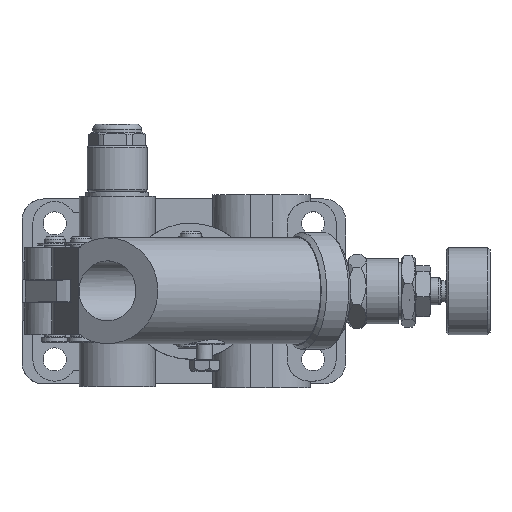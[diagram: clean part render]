
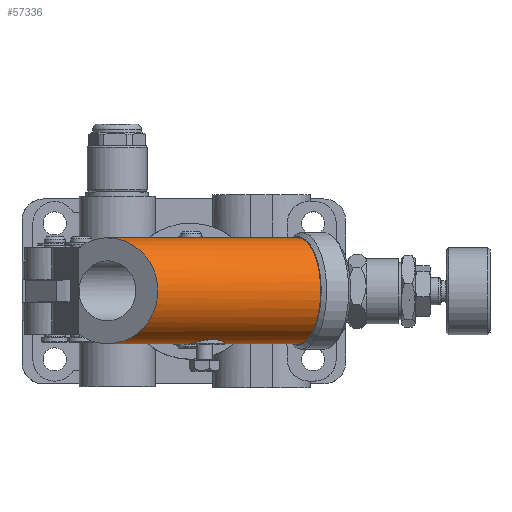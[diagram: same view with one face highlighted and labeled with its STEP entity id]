
A CAD part, top view. The second image highlights one B-rep face of the part: STEP entity #57336.
In plain terms, the highlighted cylindrical face has radius 19.48 mm (diameter 38.961 mm), a partial arc.
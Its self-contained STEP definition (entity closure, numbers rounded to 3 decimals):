
#95=ELLIPSE('',#60518,20.731,19.481);
#96=ELLIPSE('',#60523,20.731,19.481);
#97=ELLIPSE('',#60526,20.731,19.481);
#98=ELLIPSE('',#60529,22.494,19.481);
#99=ELLIPSE('',#60532,20.731,19.481);
#326=B_SPLINE_CURVE_WITH_KNOTS('',3,(#86582,#86583,#86584,#86585,#86586,
#86587),.UNSPECIFIED.,.F.,.F.,(4,1,1,4),(0.039,0.043,
0.045,0.047),.UNSPECIFIED.);
#327=B_SPLINE_CURVE_WITH_KNOTS('',3,(#86589,#86590,#86591,#86592,#86593),
 .UNSPECIFIED.,.F.,.F.,(4,1,4),(0.,0.004,0.009),
 .UNSPECIFIED.);
#328=B_SPLINE_CURVE_WITH_KNOTS('',3,(#86597,#86598,#86599,#86600,#86601),
 .UNSPECIFIED.,.F.,.F.,(4,1,4),(0.032,0.035,0.039),
 .UNSPECIFIED.);
#329=B_SPLINE_CURVE_WITH_KNOTS('',3,(#86603,#86604,#86605,#86606,#86607,
#86608,#86609),.UNSPECIFIED.,.F.,.F.,(4,1,1,1,4),(0.015,0.019,
0.024,0.028,0.032),.UNSPECIFIED.);
#330=B_SPLINE_CURVE_WITH_KNOTS('',3,(#86611,#86612,#86613,#86614,#86615),
 .UNSPECIFIED.,.F.,.F.,(4,1,4),(0.009,0.012,
0.015),.UNSPECIFIED.);
#5062=LINE('',#86549,#9810);
#5063=LINE('',#86550,#9811);
#5067=LINE('',#86560,#9815);
#5068=LINE('',#86562,#9816);
#5070=LINE('',#86568,#9818);
#5071=LINE('',#86572,#9819);
#5074=LINE('',#86580,#9822);
#9810=VECTOR('',#71581,1000.);
#9811=VECTOR('',#71582,1000.);
#9815=VECTOR('',#71592,1000.);
#9816=VECTOR('',#71593,1000.);
#9818=VECTOR('',#71601,1000.);
#9819=VECTOR('',#71608,1000.);
#9822=VECTOR('',#71617,1000.);
#23251=ORIENTED_EDGE('',*,*,#29139,.F.);
#23252=ORIENTED_EDGE('',*,*,#29138,.T.);
#23253=ORIENTED_EDGE('',*,*,#29135,.T.);
#23254=ORIENTED_EDGE('',*,*,#29134,.T.);
#23255=ORIENTED_EDGE('',*,*,#29133,.F.);
#23256=ORIENTED_EDGE('',*,*,#29131,.T.);
#23257=ORIENTED_EDGE('',*,*,#29130,.F.);
#23258=ORIENTED_EDGE('',*,*,#29140,.F.);
#23259=ORIENTED_EDGE('',*,*,#29143,.F.);
#23260=ORIENTED_EDGE('',*,*,#29144,.F.);
#23261=ORIENTED_EDGE('',*,*,#29145,.F.);
#23262=ORIENTED_EDGE('',*,*,#29141,.F.);
#23263=ORIENTED_EDGE('',*,*,#29129,.F.);
#23264=ORIENTED_EDGE('',*,*,#29127,.F.);
#23265=ORIENTED_EDGE('',*,*,#29124,.T.);
#23266=ORIENTED_EDGE('',*,*,#29121,.T.);
#23267=ORIENTED_EDGE('',*,*,#29123,.T.);
#23268=ORIENTED_EDGE('',*,*,#29119,.F.);
#29119=EDGE_CURVE('',#33018,#33019,#95,.T.);
#29121=EDGE_CURVE('',#33020,#33021,#33968,.T.);
#29123=EDGE_CURVE('',#33021,#33019,#5062,.F.);
#29124=EDGE_CURVE('',#33022,#33020,#5063,.T.);
#29127=EDGE_CURVE('',#33022,#33023,#96,.T.);
#29129=EDGE_CURVE('',#33023,#33025,#5067,.F.);
#29130=EDGE_CURVE('',#33025,#33024,#5068,.F.);
#29131=EDGE_CURVE('',#33026,#33024,#97,.T.);
#29133=EDGE_CURVE('',#33026,#32999,#5070,.F.);
#29134=EDGE_CURVE('',#33000,#32999,#98,.T.);
#29135=EDGE_CURVE('',#33027,#33000,#5071,.F.);
#29138=EDGE_CURVE('',#33028,#33027,#99,.T.);
#29139=EDGE_CURVE('',#33028,#33018,#5074,.T.);
#29140=EDGE_CURVE('',#33029,#33025,#326,.T.);
#29141=EDGE_CURVE('',#33025,#33030,#327,.T.);
#29143=EDGE_CURVE('',#33031,#33029,#328,.T.);
#29144=EDGE_CURVE('',#33032,#33031,#329,.T.);
#29145=EDGE_CURVE('',#33030,#33032,#330,.T.);
#32999=VERTEX_POINT('',#86480);
#33000=VERTEX_POINT('',#86482);
#33018=VERTEX_POINT('',#86539);
#33019=VERTEX_POINT('',#86541);
#33020=VERTEX_POINT('',#86545);
#33021=VERTEX_POINT('',#86546);
#33022=VERTEX_POINT('',#86551);
#33023=VERTEX_POINT('',#86555);
#33024=VERTEX_POINT('',#86559);
#33025=VERTEX_POINT('',#86561);
#33026=VERTEX_POINT('',#86565);
#33027=VERTEX_POINT('',#86573);
#33028=VERTEX_POINT('',#86577);
#33029=VERTEX_POINT('',#86588);
#33030=VERTEX_POINT('',#86594);
#33031=VERTEX_POINT('',#86602);
#33032=VERTEX_POINT('',#86610);
#33968=CIRCLE('',#60520,19.481);
#36899=EDGE_LOOP('',(#23251,#23252,#23253,#23254,#23255,#23256,#23257,#23258,
#23259,#23260,#23261,#23262,#23263,#23264,#23265,#23266,#23267,#23268));
#39850=FACE_BOUND('',#36899,.T.);
#40149=CYLINDRICAL_SURFACE('',#60536,19.481);
#57336=ADVANCED_FACE('',(#39850),#40149,.T.);
#60518=AXIS2_PLACEMENT_3D('',#86540,#71571,#71572);
#60520=AXIS2_PLACEMENT_3D('',#86544,#71576,#71577);
#60523=AXIS2_PLACEMENT_3D('',#86556,#71587,#71588);
#60526=AXIS2_PLACEMENT_3D('',#86564,#71596,#71597);
#60529=AXIS2_PLACEMENT_3D('',#86570,#71604,#71605);
#60532=AXIS2_PLACEMENT_3D('',#86578,#71613,#71614);
#60536=AXIS2_PLACEMENT_3D('',#86596,#71622,#71623);
#71571=DIRECTION('',(-0.702,0.,0.712));
#71572=DIRECTION('',(0.712,0.,0.702));
#71576=DIRECTION('',(-0.903,0.,0.429));
#71577=DIRECTION('',(0.429,0.,0.903));
#71581=DIRECTION('',(0.903,0.,-0.429));
#71582=DIRECTION('',(0.903,0.,-0.429));
#71587=DIRECTION('',(-0.702,0.,0.712));
#71588=DIRECTION('',(0.712,0.,0.702));
#71592=DIRECTION('',(0.903,0.,-0.429));
#71593=DIRECTION('',(0.903,0.,-0.429));
#71596=DIRECTION('',(-0.996,0.,0.094));
#71597=DIRECTION('',(-0.094,0.,-0.996));
#71601=DIRECTION('',(0.903,0.,-0.429));
#71604=DIRECTION('',(0.568,0.,-0.823));
#71605=DIRECTION('',(0.823,0.,0.568));
#71608=DIRECTION('',(0.903,0.,-0.429));
#71613=DIRECTION('',(-0.996,0.,0.094));
#71614=DIRECTION('',(-0.094,0.,-0.996));
#71617=DIRECTION('',(0.903,0.,-0.429));
#71622=DIRECTION('',(0.903,0.,-0.429));
#71623=DIRECTION('',(-0.429,0.,-0.903));
#86480=CARTESIAN_POINT('',(-41.164,-15.984,138.41));
#86482=CARTESIAN_POINT('',(-41.164,15.984,138.41));
#86539=CARTESIAN_POINT('',(35.198,17.982,106.214));
#86540=CARTESIAN_POINT('',(40.873,0.,111.814));
#86541=CARTESIAN_POINT('',(27.252,7.492,98.374));
#86544=CARTESIAN_POINT('',(39.426,0.,112.501));
#86545=CARTESIAN_POINT('',(31.718,-7.493,96.255));
#86546=CARTESIAN_POINT('',(31.718,7.492,96.255));
#86549=CARTESIAN_POINT('',(-44.098,7.492,132.224));
#86550=CARTESIAN_POINT('',(-44.098,-7.493,132.224));
#86551=CARTESIAN_POINT('',(27.252,-7.493,98.374));
#86555=CARTESIAN_POINT('',(35.198,-17.982,106.214));
#86556=CARTESIAN_POINT('',(40.873,0.,111.814));
#86559=CARTESIAN_POINT('',(-11.063,-17.982,128.162));
#86560=CARTESIAN_POINT('',(-39.602,-17.982,141.701));
#86561=CARTESIAN_POINT('',(1.916,-17.982,122.004));
#86562=CARTESIAN_POINT('',(-39.602,-17.982,141.701));
#86564=CARTESIAN_POINT('',(-10.316,0.,136.1));
#86565=CARTESIAN_POINT('',(-11.427,-15.984,124.302));
#86568=CARTESIAN_POINT('',(-41.164,-15.984,138.41));
#86570=CARTESIAN_POINT('',(-30.582,0.,145.715));
#86572=CARTESIAN_POINT('',(-41.164,15.984,138.41));
#86573=CARTESIAN_POINT('',(-11.427,15.984,124.302));
#86577=CARTESIAN_POINT('',(-11.063,17.982,128.162));
#86578=CARTESIAN_POINT('',(-10.316,0.,136.1));
#86580=CARTESIAN_POINT('',(-39.602,17.982,141.701));
#86582=CARTESIAN_POINT('',(-2.364,-19.231,128.886));
#86583=CARTESIAN_POINT('',(-2.385,-19.021,127.459));
#86584=CARTESIAN_POINT('',(-1.797,-18.538,125.331));
#86585=CARTESIAN_POINT('',(0.063,-18.071,123.114));
#86586=CARTESIAN_POINT('',(1.257,-17.982,122.317));
#86587=CARTESIAN_POINT('',(1.916,-17.982,122.004));
#86588=CARTESIAN_POINT('',(-2.364,-19.231,128.886));
#86589=CARTESIAN_POINT('',(1.916,-17.982,122.004));
#86590=CARTESIAN_POINT('',(3.235,-17.982,121.378));
#86591=CARTESIAN_POINT('',(6.165,-18.372,120.937));
#86592=CARTESIAN_POINT('',(8.868,-19.022,122.127));
#86593=CARTESIAN_POINT('',(9.954,-19.231,123.042));
#86594=CARTESIAN_POINT('',(9.954,-19.231,123.042));
#86596=CARTESIAN_POINT('',(-36.39,0.,148.471));
#86597=CARTESIAN_POINT('',(0.302,-19.231,134.504));
#86598=CARTESIAN_POINT('',(-0.516,-19.388,133.816));
#86599=CARTESIAN_POINT('',(-1.851,-19.574,132.089));
#86600=CARTESIAN_POINT('',(-2.348,-19.387,129.946));
#86601=CARTESIAN_POINT('',(-2.364,-19.231,128.886));
#86602=CARTESIAN_POINT('',(0.302,-19.231,134.504));
#86603=CARTESIAN_POINT('',(12.62,-19.231,128.66));
#86604=CARTESIAN_POINT('',(12.641,-19.02,130.096));
#86605=CARTESIAN_POINT('',(11.864,-18.374,132.909));
#86606=CARTESIAN_POINT('',(8.532,-17.786,135.931));
#86607=CARTESIAN_POINT('',(4.071,-18.373,136.608));
#86608=CARTESIAN_POINT('',(1.402,-19.019,135.431));
#86609=CARTESIAN_POINT('',(0.302,-19.231,134.504));
#86610=CARTESIAN_POINT('',(12.62,-19.231,128.66));
#86611=CARTESIAN_POINT('',(9.954,-19.231,123.042));
#86612=CARTESIAN_POINT('',(10.761,-19.386,123.721));
#86613=CARTESIAN_POINT('',(12.108,-19.574,125.456));
#86614=CARTESIAN_POINT('',(12.603,-19.388,127.594));
#86615=CARTESIAN_POINT('',(12.62,-19.231,128.66));
